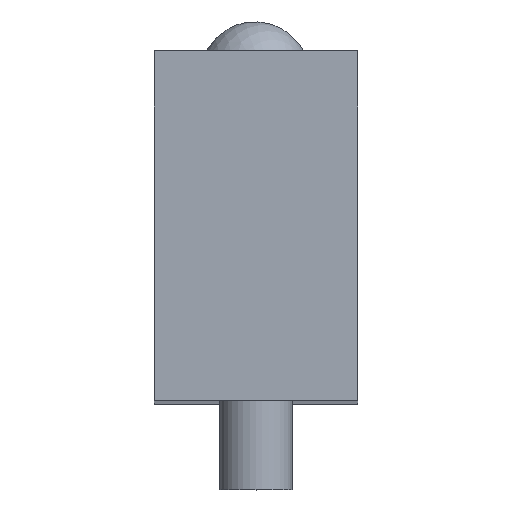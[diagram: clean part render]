
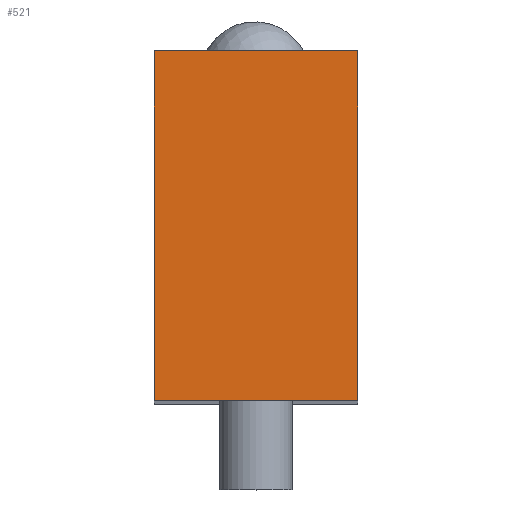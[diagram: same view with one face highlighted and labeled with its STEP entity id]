
A CAD part, top view. The second image highlights one B-rep face of the part: STEP entity #521.
In plain terms, the highlighted planar face has unit normal (0, 0, 1).
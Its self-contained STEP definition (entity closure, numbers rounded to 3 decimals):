
#34=LINE('',#877,#56);
#38=LINE('',#890,#60);
#45=LINE('',#911,#67);
#46=LINE('',#913,#68);
#56=VECTOR('',#735,10.);
#60=VECTOR('',#745,10.);
#67=VECTOR('',#770,10.);
#68=VECTOR('',#773,10.);
#126=FACE_OUTER_BOUND('',#174,.T.);
#174=EDGE_LOOP('',(#435,#436,#437,#438));
#246=VERTEX_POINT('',#874);
#247=VERTEX_POINT('',#876);
#252=VERTEX_POINT('',#887);
#253=VERTEX_POINT('',#889);
#300=EDGE_CURVE('',#247,#246,#34,.T.);
#306=EDGE_CURVE('',#253,#252,#38,.T.);
#317=EDGE_CURVE('',#246,#253,#45,.T.);
#318=EDGE_CURVE('',#252,#247,#46,.T.);
#435=ORIENTED_EDGE('',*,*,#306,.T.);
#436=ORIENTED_EDGE('',*,*,#318,.T.);
#437=ORIENTED_EDGE('',*,*,#300,.T.);
#438=ORIENTED_EDGE('',*,*,#317,.T.);
#454=PLANE('',#611);
#521=ADVANCED_FACE('',(#126),#454,.T.);
#611=AXIS2_PLACEMENT_3D('',#914,#774,#775);
#735=DIRECTION('',(-1.,0.,0.));
#745=DIRECTION('',(1.,0.,0.));
#770=DIRECTION('',(0.,-1.,0.));
#773=DIRECTION('',(0.,1.,0.));
#774=DIRECTION('center_axis',(0.,0.,1.));
#775=DIRECTION('ref_axis',(1.,0.,0.));
#874=CARTESIAN_POINT('',(-13.9,47.8,55.));
#876=CARTESIAN_POINT('',(13.9,47.8,55.));
#877=CARTESIAN_POINT('',(13.9,47.8,55.));
#887=CARTESIAN_POINT('',(13.9,0.,55.));
#889=CARTESIAN_POINT('',(-13.9,0.,55.));
#890=CARTESIAN_POINT('',(-13.9,0.,55.));
#911=CARTESIAN_POINT('',(-13.9,47.8,55.));
#913=CARTESIAN_POINT('',(13.9,0.,55.));
#914=CARTESIAN_POINT('Origin',(0.,23.9,55.));
